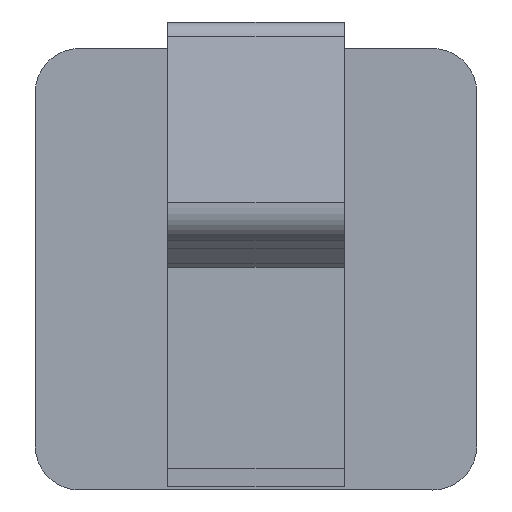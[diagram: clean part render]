
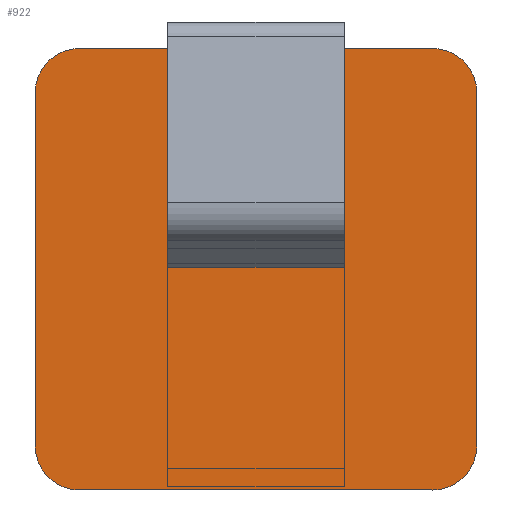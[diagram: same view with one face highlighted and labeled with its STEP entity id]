
A CAD part, left-side view. The second image highlights one B-rep face of the part: STEP entity #922.
In plain terms, the highlighted planar face has unit normal (-1, 0, 0).
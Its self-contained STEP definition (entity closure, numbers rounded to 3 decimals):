
#36 = VECTOR ( 'NONE', #339, 1000. ) ;
#45 = VERTEX_POINT ( 'NONE', #2072 ) ;
#60 = AXIS2_PLACEMENT_3D ( 'NONE', #1802, #980, #830 ) ;
#100 = VERTEX_POINT ( 'NONE', #664 ) ;
#127 = VERTEX_POINT ( 'NONE', #954 ) ;
#143 = VERTEX_POINT ( 'NONE', #2119 ) ;
#173 = ORIENTED_EDGE ( 'NONE', *, *, #440, .T. ) ;
#236 = DIRECTION ( 'NONE',  ( 0., -1., 0. ) ) ;
#245 = PLANE ( 'NONE',  #1850 ) ;
#260 = AXIS2_PLACEMENT_3D ( 'NONE', #637, #458, #1055 ) ;
#339 = DIRECTION ( 'NONE',  ( 0., 0., -1. ) ) ;
#342 = VECTOR ( 'NONE', #236, 1000. ) ;
#376 = EDGE_CURVE ( 'NONE', #386, #1749, #1710, .T. ) ;
#386 = VERTEX_POINT ( 'NONE', #473 ) ;
#393 = LINE ( 'NONE', #1538, #1905 ) ;
#438 = VECTOR ( 'NONE', #1879, 1000. ) ;
#440 = EDGE_CURVE ( 'NONE', #1749, #143, #2403, .T. ) ;
#458 = DIRECTION ( 'NONE',  ( -1., 0., 0. ) ) ;
#464 = VERTEX_POINT ( 'NONE', #1831 ) ;
#473 = CARTESIAN_POINT ( 'NONE',  ( -4649.807, -3847., -1095.42 ) ) ;
#479 = CARTESIAN_POINT ( 'NONE',  ( -4649.807, -3847., -1087.67 ) ) ;
#493 = CIRCLE ( 'NONE', #656, 2.5 ) ;
#509 = ORIENTED_EDGE ( 'NONE', *, *, #1136, .T. ) ;
#637 = CARTESIAN_POINT ( 'NONE',  ( -4649.807, -3849.5, -1095.42 ) ) ;
#644 = CARTESIAN_POINT ( 'NONE',  ( -4649.807, -3859.5, -1085.42 ) ) ;
#655 = EDGE_CURVE ( 'NONE', #464, #45, #393, .T. ) ;
#656 = AXIS2_PLACEMENT_3D ( 'NONE', #2486, #755, #2297 ) ;
#658 = CARTESIAN_POINT ( 'NONE',  ( -4649.807, -3867.525, -1097.92 ) ) ;
#664 = CARTESIAN_POINT ( 'NONE',  ( -4649.807, -3849.5, -1072.92 ) ) ;
#755 = DIRECTION ( 'NONE',  ( -1., 0., 0. ) ) ;
#790 = EDGE_CURVE ( 'NONE', #100, #127, #493, .T. ) ;
#799 = EDGE_LOOP ( 'NONE', ( #1241, #509, #1763, #1690, #1952, #173, #2139, #907 ) ) ;
#830 = DIRECTION ( 'NONE',  ( 0., 1., 0. ) ) ;
#906 = LINE ( 'NONE', #1683, #438 ) ;
#907 = ORIENTED_EDGE ( 'NONE', *, *, #655, .T. ) ;
#922 = ADVANCED_FACE ( 'NONE', ( #1212 ), #245, .T. ) ;
#954 = CARTESIAN_POINT ( 'NONE',  ( -4649.807, -3847., -1075.42 ) ) ;
#980 = DIRECTION ( 'NONE',  ( -1., 0., 0. ) ) ;
#1052 = DIRECTION ( 'NONE',  ( -1., 0., 0. ) ) ;
#1055 = DIRECTION ( 'NONE',  ( 0., 1., 0. ) ) ;
#1136 = EDGE_CURVE ( 'NONE', #1575, #100, #906, .T. ) ;
#1212 = FACE_OUTER_BOUND ( 'NONE', #799, .T. ) ;
#1241 = ORIENTED_EDGE ( 'NONE', *, *, #2106, .T. ) ;
#1245 = DIRECTION ( 'NONE',  ( 0., -1., 0. ) ) ;
#1311 = CIRCLE ( 'NONE', #2276, 2.5 ) ;
#1368 = EDGE_CURVE ( 'NONE', #127, #386, #1862, .T. ) ;
#1459 = CARTESIAN_POINT ( 'NONE',  ( -4649.807, -3849.5, -1097.92 ) ) ;
#1538 = CARTESIAN_POINT ( 'NONE',  ( -4649.807, -3872., -1087.67 ) ) ;
#1575 = VERTEX_POINT ( 'NONE', #2301 ) ;
#1683 = CARTESIAN_POINT ( 'NONE',  ( -4649.807, -3867.525, -1072.92 ) ) ;
#1690 = ORIENTED_EDGE ( 'NONE', *, *, #1368, .T. ) ;
#1710 = CIRCLE ( 'NONE', #260, 2.5 ) ;
#1749 = VERTEX_POINT ( 'NONE', #1459 ) ;
#1763 = ORIENTED_EDGE ( 'NONE', *, *, #790, .T. ) ;
#1802 = CARTESIAN_POINT ( 'NONE',  ( -4649.807, -3869.5, -1095.42 ) ) ;
#1831 = CARTESIAN_POINT ( 'NONE',  ( -4649.807, -3872., -1095.42 ) ) ;
#1844 = CARTESIAN_POINT ( 'NONE',  ( -4649.807, -3869.5, -1075.42 ) ) ;
#1850 = AXIS2_PLACEMENT_3D ( 'NONE', #644, #1052, #1245 ) ;
#1862 = LINE ( 'NONE', #479, #36 ) ;
#1879 = DIRECTION ( 'NONE',  ( 0., 1., 0. ) ) ;
#1905 = VECTOR ( 'NONE', #1917, 1000. ) ;
#1917 = DIRECTION ( 'NONE',  ( 0., 0., 1. ) ) ;
#1952 = ORIENTED_EDGE ( 'NONE', *, *, #376, .T. ) ;
#2063 = DIRECTION ( 'NONE',  ( -1., 0., 0. ) ) ;
#2072 = CARTESIAN_POINT ( 'NONE',  ( -4649.807, -3872., -1075.42 ) ) ;
#2106 = EDGE_CURVE ( 'NONE', #45, #1575, #1311, .T. ) ;
#2119 = CARTESIAN_POINT ( 'NONE',  ( -4649.807, -3869.5, -1097.92 ) ) ;
#2139 = ORIENTED_EDGE ( 'NONE', *, *, #2350, .T. ) ;
#2276 = AXIS2_PLACEMENT_3D ( 'NONE', #1844, #2063, #2433 ) ;
#2297 = DIRECTION ( 'NONE',  ( 0., 1., 0. ) ) ;
#2301 = CARTESIAN_POINT ( 'NONE',  ( -4649.807, -3869.5, -1072.92 ) ) ;
#2350 = EDGE_CURVE ( 'NONE', #143, #464, #2407, .T. ) ;
#2403 = LINE ( 'NONE', #658, #342 ) ;
#2407 = CIRCLE ( 'NONE', #60, 2.5 ) ;
#2433 = DIRECTION ( 'NONE',  ( 0., 1., 0. ) ) ;
#2486 = CARTESIAN_POINT ( 'NONE',  ( -4649.807, -3849.5, -1075.42 ) ) ;
